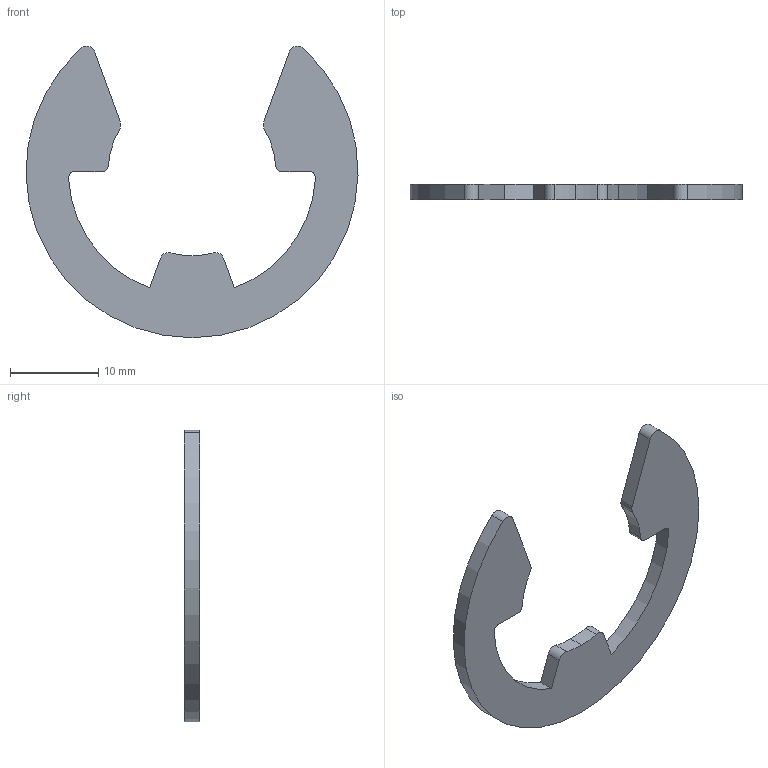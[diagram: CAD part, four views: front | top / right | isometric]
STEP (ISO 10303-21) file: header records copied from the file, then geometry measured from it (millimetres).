
FILE_DESCRIPTION (( 'STEP AP203' ), '1' );
FILE_NAME ('P0382.190-PH.step', '2019-07-25T21:01:41', ( '' ), ( '' ), 'SwSTEP 2.0', 'SolidWorks 2017', '' );
FILE_SCHEMA (( 'CONFIG_CONTROL_DESIGN' ));
Length unit declared in the file: millimetre
Products named in the file (1): P0382.190-PH
Bounding box: 37.59 x 1.75 x 33 mm (x, y, z)
Volume: 865.7 mm3; surface area: 1304.2 mm2
Topology: 1 solids, 1 shells, 26 faces, 72 edges, 48 vertices
Faces by surface type: cylinder 18, plane 8
Entity records: 929 total; most frequent: DIRECTION 162, CARTESIAN_POINT 147, ORIENTED_EDGE 144, EDGE_CURVE 72, AXIS2_PLACEMENT_3D 63, VERTEX_POINT 48, VECTOR 36, LINE 36
